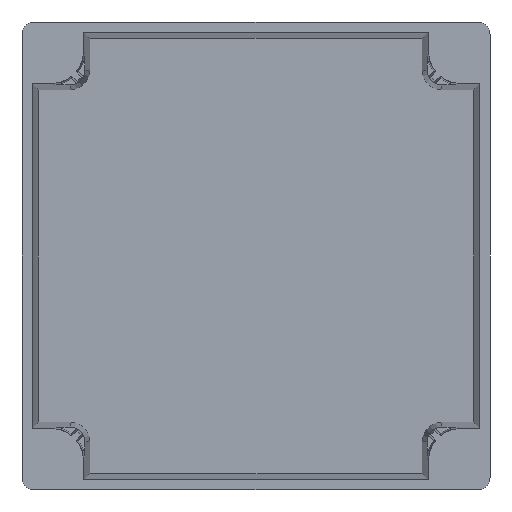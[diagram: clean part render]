
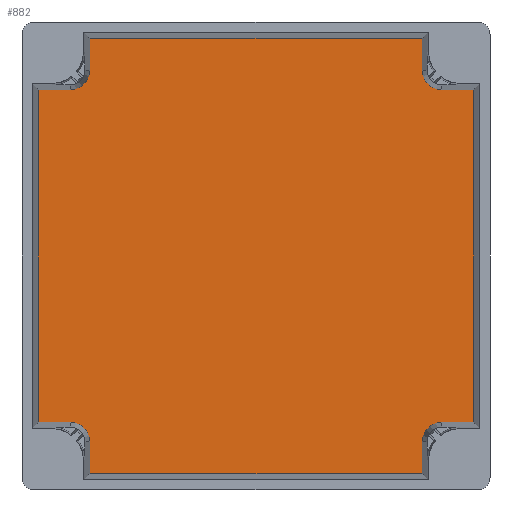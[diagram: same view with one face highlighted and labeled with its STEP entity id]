
A CAD part, front view. The second image highlights one B-rep face of the part: STEP entity #882.
In plain terms, the highlighted planar face has unit normal (0, -1, 0).
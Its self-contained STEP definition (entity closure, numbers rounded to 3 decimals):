
#726 = VERTEX_POINT ( 'NONE', #6171 ) ;
#727 = ORIENTED_EDGE ( 'NONE', *, *, #728, .T. ) ;
#728 = EDGE_CURVE ( 'NONE', #726, #729, #6177, .T. ) ;
#729 = VERTEX_POINT ( 'NONE', #6173 ) ;
#730 = ORIENTED_EDGE ( 'NONE', *, *, #731, .T. ) ;
#731 = EDGE_CURVE ( 'NONE', #729, #732, #6180, .T. ) ;
#732 = VERTEX_POINT ( 'NONE', #6187 ) ;
#733 = ORIENTED_EDGE ( 'NONE', *, *, #734, .T. ) ;
#734 = EDGE_CURVE ( 'NONE', #732, #735, #6186, .T. ) ;
#735 = VERTEX_POINT ( 'NONE', #6193 ) ;
#736 = ORIENTED_EDGE ( 'NONE', *, *, #737, .T. ) ;
#737 = EDGE_CURVE ( 'NONE', #735, #738, #6192, .T. ) ;
#738 = VERTEX_POINT ( 'NONE', #6161 ) ;
#739 = ORIENTED_EDGE ( 'NONE', *, *, #740, .T. ) ;
#740 = EDGE_CURVE ( 'NONE', #738, #741, #6153, .T. ) ;
#741 = VERTEX_POINT ( 'NONE', #6149 ) ;
#742 = ORIENTED_EDGE ( 'NONE', *, *, #905, .T. ) ;
#759 = ORIENTED_EDGE ( 'NONE', *, *, #760, .T. ) ;
#760 = EDGE_CURVE ( 'NONE', #890, #891, #6205, .T. ) ;
#761 = ORIENTED_EDGE ( 'NONE', *, *, #762, .T. ) ;
#762 = EDGE_CURVE ( 'NONE', #891, #763, #5659, .T. ) ;
#763 = VERTEX_POINT ( 'NONE', #6220 ) ;
#764 = ORIENTED_EDGE ( 'NONE', *, *, #765, .T. ) ;
#765 = EDGE_CURVE ( 'NONE', #763, #766, #6221, .T. ) ;
#766 = VERTEX_POINT ( 'NONE', #6229 ) ;
#767 = ORIENTED_EDGE ( 'NONE', *, *, #1079, .T. ) ;
#804 = VERTEX_POINT ( 'NONE', #6295 ) ;
#882 = ADVANCED_FACE ( 'NONE', ( #2187 ), #2185, .F. ) ;
#883 = EDGE_LOOP ( 'NONE', ( #884, #888, #759, #761, #764, #767, #1080, #1083, #1125, #1121, #727, #730, #733, #736, #739, #742 ) ) ;
#884 = ORIENTED_EDGE ( 'NONE', *, *, #885, .T. ) ;
#885 = EDGE_CURVE ( 'NONE', #886, #887, #2172, .T. ) ;
#886 = VERTEX_POINT ( 'NONE', #2167 ) ;
#887 = VERTEX_POINT ( 'NONE', #2166 ) ;
#888 = ORIENTED_EDGE ( 'NONE', *, *, #889, .T. ) ;
#889 = EDGE_CURVE ( 'NONE', #887, #890, #2165, .T. ) ;
#890 = VERTEX_POINT ( 'NONE', #2161 ) ;
#891 = VERTEX_POINT ( 'NONE', #2160 ) ;
#905 = EDGE_CURVE ( 'NONE', #741, #886, #2265, .T. ) ;
#1079 = EDGE_CURVE ( 'NONE', #766, #804, #2594, .T. ) ;
#1080 = ORIENTED_EDGE ( 'NONE', *, *, #1081, .T. ) ;
#1081 = EDGE_CURVE ( 'NONE', #804, #1082, #2569, .T. ) ;
#1082 = VERTEX_POINT ( 'NONE', #2565 ) ;
#1083 = ORIENTED_EDGE ( 'NONE', *, *, #1123, .T. ) ;
#1120 = VERTEX_POINT ( 'NONE', #2539 ) ;
#1121 = ORIENTED_EDGE ( 'NONE', *, *, #1122, .T. ) ;
#1122 = EDGE_CURVE ( 'NONE', #1120, #726, #2538, .T. ) ;
#1123 = EDGE_CURVE ( 'NONE', #1082, #1124, #2534, .T. ) ;
#1124 = VERTEX_POINT ( 'NONE', #2530 ) ;
#1125 = ORIENTED_EDGE ( 'NONE', *, *, #1126, .T. ) ;
#1126 = EDGE_CURVE ( 'NONE', #1124, #1120, #2529, .T. ) ;
#2160 = CARTESIAN_POINT ( 'NONE',  ( -46.209, 49.3, 60.459 ) ) ;
#2161 = CARTESIAN_POINT ( 'NONE',  ( 46.209, 49.3, 60.459 ) ) ;
#2162 = DIRECTION ( 'NONE',  ( 0., 0., 1. ) ) ;
#2163 = VECTOR ( 'NONE', #2162, 1000. ) ;
#2164 = CARTESIAN_POINT ( 'NONE',  ( 46.209, 49.3, 51.634 ) ) ;
#2165 = LINE ( 'NONE', #2164, #2163 ) ;
#2166 = CARTESIAN_POINT ( 'NONE',  ( 46.209, 49.3, 51.634 ) ) ;
#2167 = CARTESIAN_POINT ( 'NONE',  ( 51.634, 49.3, 46.209 ) ) ;
#2168 = DIRECTION ( 'NONE',  ( 0., 0., 1. ) ) ;
#2169 = DIRECTION ( 'NONE',  ( 0., 1., 0. ) ) ;
#2170 = CARTESIAN_POINT ( 'NONE',  ( 51.634, 49.3, 51.634 ) ) ;
#2171 = AXIS2_PLACEMENT_3D ( 'NONE', #2170, #2169, #2168 ) ;
#2172 = CIRCLE ( 'NONE', #2171, 5.425 ) ;
#2173 = DIRECTION ( 'NONE',  ( 0., 0., 1. ) ) ;
#2174 = DIRECTION ( 'NONE',  ( 0., 1., 0. ) ) ;
#2175 = CARTESIAN_POINT ( 'NONE',  ( -56.75, 49.3, -56.75 ) ) ;
#2180 = AXIS2_PLACEMENT_3D ( 'NONE', #2175, #2174, #2173 ) ;
#2185 = PLANE ( 'NONE',  #2180 ) ;
#2187 = FACE_OUTER_BOUND ( 'NONE', #883, .T. ) ;
#2262 = DIRECTION ( 'NONE',  ( -1., 0., 0. ) ) ;
#2263 = VECTOR ( 'NONE', #2262, 1000. ) ;
#2264 = CARTESIAN_POINT ( 'NONE',  ( 61.779, 49.3, 46.209 ) ) ;
#2265 = LINE ( 'NONE', #2264, #2263 ) ;
#2525 = DIRECTION ( 'NONE',  ( 0., 0., 1. ) ) ;
#2526 = DIRECTION ( 'NONE',  ( 0., 1., 0. ) ) ;
#2527 = CARTESIAN_POINT ( 'NONE',  ( -51.634, 49.3, -51.634 ) ) ;
#2528 = AXIS2_PLACEMENT_3D ( 'NONE', #2527, #2526, #2525 ) ;
#2529 = CIRCLE ( 'NONE', #2528, 5.425 ) ;
#2530 = CARTESIAN_POINT ( 'NONE',  ( -51.634, 49.3, -46.209 ) ) ;
#2531 = DIRECTION ( 'NONE',  ( 1., 0., 0. ) ) ;
#2532 = VECTOR ( 'NONE', #2531, 1000. ) ;
#2533 = CARTESIAN_POINT ( 'NONE',  ( -61.779, 49.3, -46.209 ) ) ;
#2534 = LINE ( 'NONE', #2533, #2532 ) ;
#2535 = DIRECTION ( 'NONE',  ( 0., 0., -1. ) ) ;
#2536 = VECTOR ( 'NONE', #2535, 1000. ) ;
#2537 = CARTESIAN_POINT ( 'NONE',  ( -46.209, 49.3, -51.634 ) ) ;
#2538 = LINE ( 'NONE', #2537, #2536 ) ;
#2539 = CARTESIAN_POINT ( 'NONE',  ( -46.209, 49.3, -51.634 ) ) ;
#2565 = CARTESIAN_POINT ( 'NONE',  ( -60.459, 49.3, -46.209 ) ) ;
#2566 = DIRECTION ( 'NONE',  ( 0., 0., -1. ) ) ;
#2567 = VECTOR ( 'NONE', #2566, 1000. ) ;
#2568 = CARTESIAN_POINT ( 'NONE',  ( -60.459, 49.3, 47.529 ) ) ;
#2569 = LINE ( 'NONE', #2568, #2567 ) ;
#2591 = DIRECTION ( 'NONE',  ( -1., 0., 0. ) ) ;
#2592 = VECTOR ( 'NONE', #2591, 1000. ) ;
#2593 = CARTESIAN_POINT ( 'NONE',  ( -61.779, 49.3, 46.209 ) ) ;
#2594 = LINE ( 'NONE', #2593, #2592 ) ;
#5659 = LINE ( 'NONE', #5792, #5876 ) ;
#5792 = CARTESIAN_POINT ( 'NONE',  ( -46.209, 49.3, 51.634 ) ) ;
#5876 = VECTOR ( 'NONE', #5979, 1000. ) ;
#5979 = DIRECTION ( 'NONE',  ( 0., 0., -1. ) ) ;
#5980 = DIRECTION ( 'NONE',  ( 0., 1., 0. ) ) ;
#5981 = CARTESIAN_POINT ( 'NONE',  ( -51.634, 49.3, 51.634 ) ) ;
#5982 = AXIS2_PLACEMENT_3D ( 'NONE', #5981, #5980, #6121 ) ;
#6121 = DIRECTION ( 'NONE',  ( 0., 0., 1. ) ) ;
#6149 = CARTESIAN_POINT ( 'NONE',  ( 60.459, 49.3, 46.209 ) ) ;
#6150 = DIRECTION ( 'NONE',  ( 0., 0., 1. ) ) ;
#6151 = VECTOR ( 'NONE', #6150, 1000. ) ;
#6152 = CARTESIAN_POINT ( 'NONE',  ( 60.459, 49.3, -47.529 ) ) ;
#6153 = LINE ( 'NONE', #6152, #6151 ) ;
#6161 = CARTESIAN_POINT ( 'NONE',  ( 60.459, 49.3, -46.209 ) ) ;
#6162 = DIRECTION ( 'NONE',  ( 1., 0., 0. ) ) ;
#6163 = VECTOR ( 'NONE', #6162, 1000. ) ;
#6164 = CARTESIAN_POINT ( 'NONE',  ( 61.779, 49.3, -46.209 ) ) ;
#6171 = CARTESIAN_POINT ( 'NONE',  ( -46.209, 49.3, -60.459 ) ) ;
#6173 = CARTESIAN_POINT ( 'NONE',  ( 46.209, 49.3, -60.459 ) ) ;
#6174 = DIRECTION ( 'NONE',  ( 1., 0., 0. ) ) ;
#6175 = VECTOR ( 'NONE', #6174, 1000. ) ;
#6176 = CARTESIAN_POINT ( 'NONE',  ( -47.529, 49.3, -60.459 ) ) ;
#6177 = LINE ( 'NONE', #6176, #6175 ) ;
#6178 = DIRECTION ( 'NONE',  ( 0., 0., 1. ) ) ;
#6179 = CARTESIAN_POINT ( 'NONE',  ( 46.209, 49.3, -51.634 ) ) ;
#6180 = LINE ( 'NONE', #6179, #6188 ) ;
#6186 = CIRCLE ( 'NONE', #6191, 5.425 ) ;
#6187 = CARTESIAN_POINT ( 'NONE',  ( 46.209, 49.3, -51.634 ) ) ;
#6188 = VECTOR ( 'NONE', #6178, 1000. ) ;
#6189 = DIRECTION ( 'NONE',  ( 0., 1., 0. ) ) ;
#6190 = CARTESIAN_POINT ( 'NONE',  ( 51.634, 49.3, -51.634 ) ) ;
#6191 = AXIS2_PLACEMENT_3D ( 'NONE', #6190, #6189, #6194 ) ;
#6192 = LINE ( 'NONE', #6164, #6163 ) ;
#6193 = CARTESIAN_POINT ( 'NONE',  ( 51.634, 49.3, -46.209 ) ) ;
#6194 = DIRECTION ( 'NONE',  ( 0., 0., 1. ) ) ;
#6202 = DIRECTION ( 'NONE',  ( -1., 0., 0. ) ) ;
#6203 = VECTOR ( 'NONE', #6202, 1000. ) ;
#6204 = CARTESIAN_POINT ( 'NONE',  ( 47.529, 49.3, 60.459 ) ) ;
#6205 = LINE ( 'NONE', #6204, #6203 ) ;
#6220 = CARTESIAN_POINT ( 'NONE',  ( -46.209, 49.3, 51.634 ) ) ;
#6221 = CIRCLE ( 'NONE', #5982, 5.425 ) ;
#6229 = CARTESIAN_POINT ( 'NONE',  ( -51.634, 49.3, 46.209 ) ) ;
#6295 = CARTESIAN_POINT ( 'NONE',  ( -60.459, 49.3, 46.209 ) ) ;
